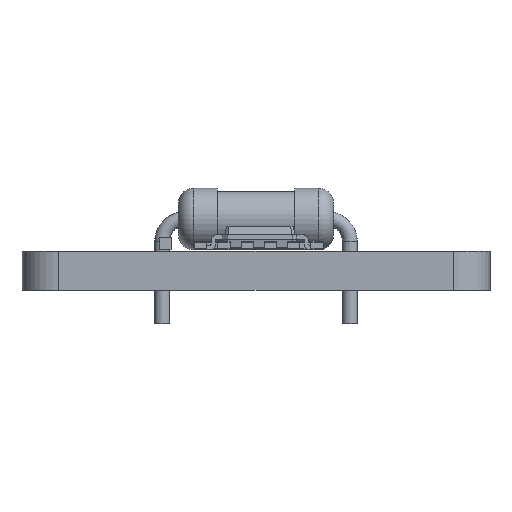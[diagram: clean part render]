
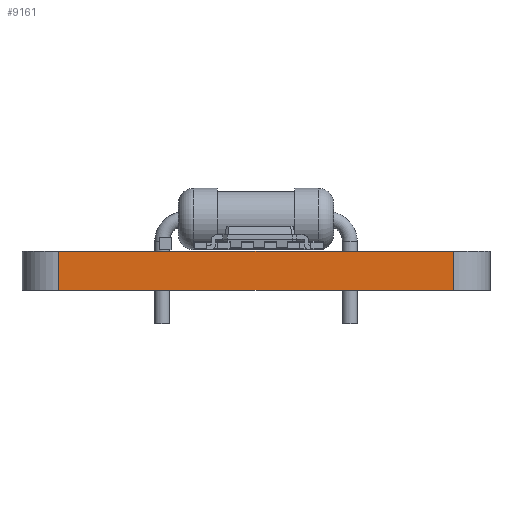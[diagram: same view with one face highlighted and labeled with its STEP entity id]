
A CAD part, front view. The second image highlights one B-rep face of the part: STEP entity #9161.
In plain terms, the highlighted planar face has unit normal (0, -1, 0).
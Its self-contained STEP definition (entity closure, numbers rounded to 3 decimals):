
#8353 = VERTEX_POINT('',#8354);
#8354 = CARTESIAN_POINT('',(95.003,-114.138,0.));
#8361 = EDGE_CURVE('',#8362,#8353,#8364,.T.);
#8362 = VERTEX_POINT('',#8363);
#8363 = CARTESIAN_POINT('',(111.003,-114.138,0.));
#8364 = LINE('',#8365,#8366);
#8365 = CARTESIAN_POINT('',(111.003,-114.138,0.));
#8366 = VECTOR('',#8367,1.);
#8367 = DIRECTION('',(-1.,0.,0.));
#8701 = VERTEX_POINT('',#8702);
#8702 = CARTESIAN_POINT('',(95.003,-114.138,1.6));
#8709 = EDGE_CURVE('',#8710,#8701,#8712,.T.);
#8710 = VERTEX_POINT('',#8711);
#8711 = CARTESIAN_POINT('',(111.003,-114.138,1.6));
#8712 = LINE('',#8713,#8714);
#8713 = CARTESIAN_POINT('',(111.003,-114.138,1.6));
#8714 = VECTOR('',#8715,1.);
#8715 = DIRECTION('',(-1.,0.,0.));
#9150 = EDGE_CURVE('',#8362,#8710,#9151,.T.);
#9151 = LINE('',#9152,#9153);
#9152 = CARTESIAN_POINT('',(111.003,-114.138,0.));
#9153 = VECTOR('',#9154,1.);
#9154 = DIRECTION('',(0.,0.,1.));
#9161 = ADVANCED_FACE('',(#9162),#9173,.T.);
#9162 = FACE_BOUND('',#9163,.T.);
#9163 = EDGE_LOOP('',(#9164,#9165,#9166,#9172));
#9164 = ORIENTED_EDGE('',*,*,#9150,.T.);
#9165 = ORIENTED_EDGE('',*,*,#8709,.T.);
#9166 = ORIENTED_EDGE('',*,*,#9167,.F.);
#9167 = EDGE_CURVE('',#8353,#8701,#9168,.T.);
#9168 = LINE('',#9169,#9170);
#9169 = CARTESIAN_POINT('',(95.003,-114.138,0.));
#9170 = VECTOR('',#9171,1.);
#9171 = DIRECTION('',(0.,0.,1.));
#9172 = ORIENTED_EDGE('',*,*,#8361,.F.);
#9173 = PLANE('',#9174);
#9174 = AXIS2_PLACEMENT_3D('',#9175,#9176,#9177);
#9175 = CARTESIAN_POINT('',(111.003,-114.138,0.));
#9176 = DIRECTION('',(0.,-1.,0.));
#9177 = DIRECTION('',(-1.,0.,0.));
